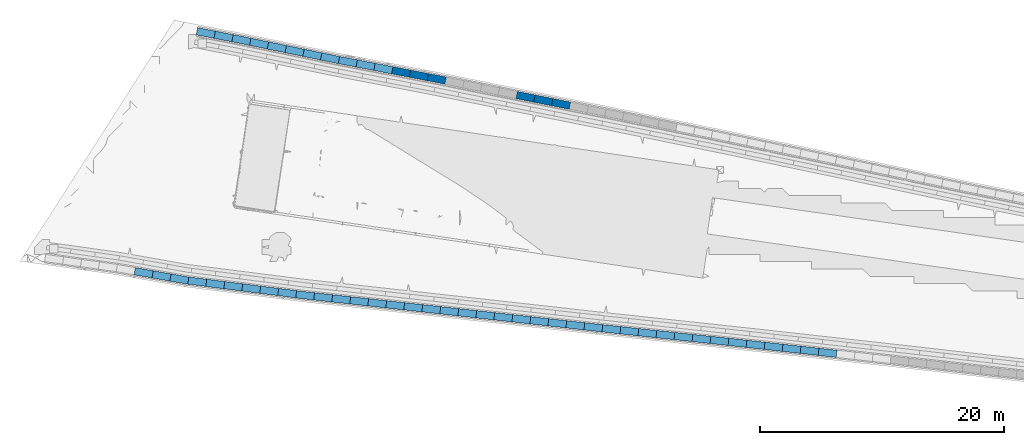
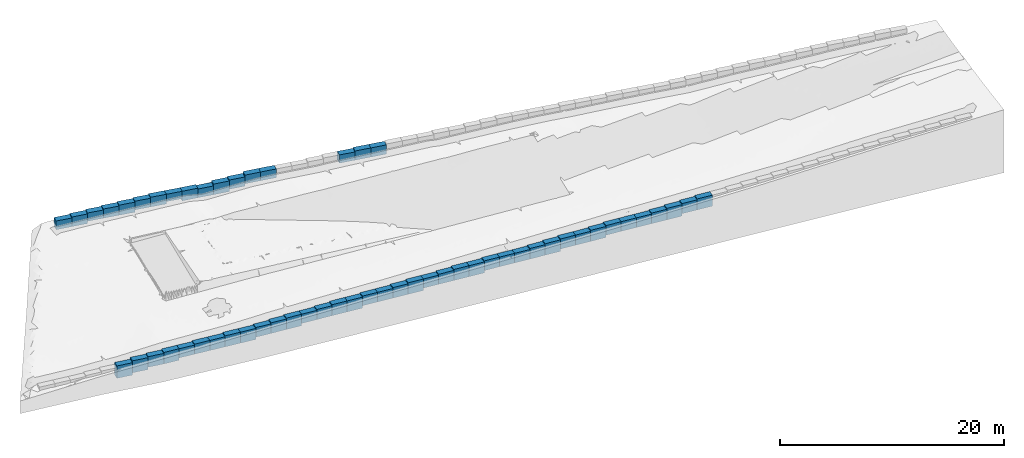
# Not in any storey, part 3 of 7: 56 walls.
"""IFC4 model written with IfcOpenShell, lengths in metres."""

from ifc_helpers import new_model, si_unit, direction, frame, origin_with_axes, place, context, subcontext, project, spatial, polyline, outline, extrude, material, element, save


model = new_model("IFC4")

# Units and contexts
model_context = context("Model", 3, precision=1e-05, world=origin_with_axes(), true_north=direction((0.0, 1.0)))
body_context = subcontext(model_context, "Body", "Model", "MODEL_VIEW")
ifc_project = project(units=[si_unit("VOLUMEUNIT", "CUBIC_METRE"), si_unit("LENGTHUNIT", "METRE"), si_unit("AREAUNIT", "SQUARE_METRE")], contexts=[model_context])

# Site
site_placement = place(None, origin_with_axes())
site = spatial("IfcSite", under=ifc_project, at=site_placement, Name="Lares · Rua das Mercês · artigo 4771")

# Walls
ifc_material = material(Name="Pedra natural · contenção conceptual", Category="stone")
wall_1_placement = place(site_placement, frame((0.0, 0.0, 12.75), z_axis=(0.0, 0.0, 1.0), x_axis=(1.0, -1.03767253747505e-17, 0.0)))
element("IfcWall", 1, at=wall_1_placement, inside=site, material=ifc_material, Name="Limite north · pedra 01", ObjectType="CONCEPT_STONE_RETAINING_EDGE", PredefinedType="USERDEFINED", context=body_context, shape_type="SweptSolid", body=[
    extrude(outline(polyline([(3.89332686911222, 23.7119824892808), (3.7781757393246, 23.1231359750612), (2.32319094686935, 23.407663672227), (2.43834207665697, 23.9965101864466), (3.89332686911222, 23.7119824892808)])), origin_with_axes(), (0.0, 0.0, 1.0), 0.950000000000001),
])
wall_2_placement = place(site_placement, frame((0.0, 0.0, 12.75), z_axis=(0.0, 0.0, 1.0), x_axis=(1.0, -1.03767253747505e-17, 0.0)))
element("IfcWall", 2, at=wall_2_placement, inside=site, material=ifc_material, Name="Limite north · pedra 02", ObjectType="CONCEPT_STONE_RETAINING_EDGE", PredefinedType="USERDEFINED", context=body_context, shape_type="SweptSolid", body=[
    extrude(outline(polyline([(5.34831166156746, 23.427454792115), (5.23316053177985, 22.8386082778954), (3.7781757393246, 23.1231359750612), (3.89332686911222, 23.7119824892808), (5.34831166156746, 23.427454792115)])), origin_with_axes(), (0.0, 0.0, 1.0), 1.05),
])
wall_3_placement = place(site_placement, frame((0.0, 0.0, 13.0), z_axis=(0.0, 0.0, 1.0), x_axis=(1.0, -1.03767253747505e-17, 0.0)))
element("IfcWall", 3, at=wall_3_placement, inside=site, material=ifc_material, Name="Limite north · pedra 03", ObjectType="CONCEPT_STONE_RETAINING_EDGE", PredefinedType="USERDEFINED", context=body_context, shape_type="SweptSolid", body=[
    extrude(outline(polyline([(5.81670150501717, 23.3358594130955), (5.81955566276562, 23.3352868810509), (6.8042320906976, 23.1327904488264), (6.68337264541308, 22.5450889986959), (5.70012190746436, 22.7472922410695), (5.23316053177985, 22.8386082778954), (5.34831166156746, 23.427454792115), (5.81670150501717, 23.3358594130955)])), origin_with_axes(), (0.0, 0.0, 1.0), 0.9),
])
wall_4_placement = place(site_placement, frame((0.0, 0.0, 13.0), z_axis=(0.0, 0.0, 1.0), x_axis=(1.0, -1.03767253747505e-17, 0.0)))
element("IfcWall", 4, at=wall_4_placement, inside=site, material=ifc_material, Name="Limite north · pedra 04", ObjectType="CONCEPT_STONE_RETAINING_EDGE", PredefinedType="USERDEFINED", context=body_context, shape_type="SweptSolid", body=[
    extrude(outline(polyline([(8.25638753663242, 22.8341580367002), (8.1355280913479, 22.2464565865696), (6.68337264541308, 22.5450889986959), (6.8042320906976, 23.1327904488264), (8.25638753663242, 22.8341580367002)])), origin_with_axes(), (0.0, 0.0, 1.0), 1.0),
])
wall_5_placement = place(site_placement, frame((0.0, 0.0, 13.0), z_axis=(0.0, 0.0, 1.0), x_axis=(1.0, -1.03767253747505e-17, 0.0)))
element("IfcWall", 5, at=wall_5_placement, inside=site, material=ifc_material, Name="Limite north · pedra 05", ObjectType="CONCEPT_STONE_RETAINING_EDGE", PredefinedType="USERDEFINED", context=body_context, shape_type="SweptSolid", body=[
    extrude(outline(polyline([(9.70854298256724, 22.5355256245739), (9.58768353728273, 21.9478241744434), (8.1355280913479, 22.2464565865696), (8.25638753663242, 22.8341580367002), (9.70854298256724, 22.5355256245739)])), origin_with_axes(), (0.0, 0.0, 1.0), 1.1),
])
wall_6_placement = place(site_placement, frame((0.0, 0.0, 13.25), z_axis=(0.0, 0.0, 1.0), x_axis=(1.0, -1.03767253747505e-17, 0.0)))
element("IfcWall", 6, at=wall_6_placement, inside=site, material=ifc_material, Name="Limite north · pedra 06", ObjectType="CONCEPT_STONE_RETAINING_EDGE", PredefinedType="USERDEFINED", context=body_context, shape_type="SweptSolid", body=[
    extrude(outline(polyline([(11.1606984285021, 22.2368932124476), (11.0398389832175, 21.6491917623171), (9.58768353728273, 21.9478241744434), (9.70854298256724, 22.5355256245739), (11.1606984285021, 22.2368932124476)])), origin_with_axes(), (0.0, 0.0, 1.0), 0.950000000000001),
])
wall_7_placement = place(site_placement, frame((0.0, 0.0, 13.25), z_axis=(0.0, 0.0, 1.0), x_axis=(1.0, -1.03767253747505e-17, 0.0)))
element("IfcWall", 7, at=wall_7_placement, inside=site, material=ifc_material, Name="Limite north · pedra 07", ObjectType="CONCEPT_STONE_RETAINING_EDGE", PredefinedType="USERDEFINED", context=body_context, shape_type="SweptSolid", body=[
    extrude(outline(polyline([(12.6128538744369, 21.9382608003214), (12.4919944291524, 21.3505593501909), (11.0398389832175, 21.6491917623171), (11.1606984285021, 22.2368932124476), (12.6128538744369, 21.9382608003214)])), origin_with_axes(), (0.0, 0.0, 1.0), 1.05),
])
wall_8_placement = place(site_placement, frame((0.0, 0.0, 13.5), z_axis=(0.0, 0.0, 1.0), x_axis=(1.0, -1.03767253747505e-17, 0.0)))
element("IfcWall", 8, at=wall_8_placement, inside=site, material=ifc_material, Name="Limite north · pedra 08", ObjectType="CONCEPT_STONE_RETAINING_EDGE", PredefinedType="USERDEFINED", context=body_context, shape_type="SweptSolid", body=[
    extrude(outline(polyline([(13.952811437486, 21.6627016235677), (14.061519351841, 21.6417948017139), (13.9482033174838, 21.0525923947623), (13.8376071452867, 21.0738623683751), (13.833835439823, 21.0746128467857), (12.4919944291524, 21.3505593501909), (12.6128538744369, 21.9382608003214), (13.952811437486, 21.6627016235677)])), origin_with_axes(), (0.0, 0.0, 1.0), 0.800000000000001),
])
wall_9_placement = place(site_placement, frame((0.0, 0.0, 13.25), z_axis=(0.0, 0.0, 1.0), x_axis=(1.0, -1.03767253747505e-17, 0.0)))
element("IfcWall", 9, at=wall_9_placement, inside=site, material=ifc_material, Name="Limite north · pedra 09", ObjectType="CONCEPT_STONE_RETAINING_EDGE", PredefinedType="USERDEFINED", context=body_context, shape_type="SweptSolid", body=[
    extrude(outline(polyline([(15.5173835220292, 21.3618014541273), (15.404067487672, 20.7725990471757), (13.9482033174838, 21.0525923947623), (14.061519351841, 21.6417948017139), (15.5173835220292, 21.3618014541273)])), origin_with_axes(), (0.0, 0.0, 1.0), 1.05),
])
wall_10_placement = place(site_placement, frame((0.0, 0.0, 13.25), z_axis=(0.0, 0.0, 1.0), x_axis=(1.0, -1.03767253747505e-17, 0.0)))
element("IfcWall", 10, at=wall_10_placement, inside=site, material=ifc_material, Name="Limite north · pedra 10", ObjectType="CONCEPT_STONE_RETAINING_EDGE", PredefinedType="USERDEFINED", context=body_context, shape_type="SweptSolid", body=[
    extrude(outline(polyline([(16.9732476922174, 21.0818081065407), (16.8599316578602, 20.4926056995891), (15.404067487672, 20.7725990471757), (15.5173835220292, 21.3618014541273), (16.9732476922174, 21.0818081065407)])), origin_with_axes(), (0.0, 0.0, 1.0), 0.950000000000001),
])
wall_11_placement = place(site_placement, frame((0.0, 0.0, 13.25), z_axis=(0.0, 0.0, 1.0), x_axis=(1.0, -1.03767253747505e-17, 0.0)))
element("IfcWall", 11, at=wall_11_placement, inside=site, material=ifc_material, Name="Limite north · pedra 11", ObjectType="CONCEPT_STONE_RETAINING_EDGE", PredefinedType="USERDEFINED", context=body_context, shape_type="SweptSolid", body=[
    extrude(outline(polyline([(18.4291118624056, 20.8018147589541), (18.3157958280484, 20.2126123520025), (16.8599316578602, 20.4926056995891), (16.9732476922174, 21.0818081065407), (18.4291118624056, 20.8018147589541)])), origin_with_axes(), (0.0, 0.0, 1.0), 1.15),
])
wall_12_placement = place(site_placement, frame((0.0, 0.0, 13.5), z_axis=(0.0, 0.0, 1.0), x_axis=(1.0, -1.03767253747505e-17, 0.0)))
element("IfcWall", 12, at=wall_12_placement, inside=site, material=ifc_material, Name="Limite north · pedra 12", ObjectType="CONCEPT_STONE_RETAINING_EDGE", PredefinedType="USERDEFINED", context=body_context, shape_type="SweptSolid", body=[
    extrude(outline(polyline([(19.8849760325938, 20.5218214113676), (19.7716599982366, 19.932619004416), (18.3157958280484, 20.2126123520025), (18.4291118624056, 20.8018147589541), (19.8849760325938, 20.5218214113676)])), origin_with_axes(), (0.0, 0.0, 1.0), 1.0),
])
wall_13_placement = place(site_placement, frame((0.0, 0.0, 13.75), z_axis=(0.0, 0.0, 1.0), x_axis=(1.0, -1.03767253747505e-17, 0.0)))
element("IfcWall", 13, at=wall_13_placement, inside=site, material=ifc_material, Name="Limite north · pedra 13", ObjectType="CONCEPT_STONE_RETAINING_EDGE", PredefinedType="USERDEFINED", context=body_context, shape_type="SweptSolid", body=[
    extrude(outline(polyline([(21.340840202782, 20.241828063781), (21.2275241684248, 19.6526256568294), (19.7716599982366, 19.932619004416), (19.8849760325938, 20.5218214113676), (21.340840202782, 20.241828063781)])), origin_with_axes(), (0.0, 0.0, 1.0), 0.950000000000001),
])
wall_14_placement = place(site_placement, frame((0.0, 0.0, 13.75), z_axis=(0.0, 0.0, 1.0), x_axis=(1.0, -1.03767253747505e-17, 0.0)))
element("IfcWall", 14, at=wall_14_placement, inside=site, material=ifc_material, Name="Limite north · pedra 14", ObjectType="CONCEPT_STONE_RETAINING_EDGE", PredefinedType="USERDEFINED", context=body_context, shape_type="SweptSolid", body=[
    extrude(outline(polyline([(22.0049114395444, 20.1141131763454), (22.0078251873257, 20.1135378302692), (22.7980717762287, 19.9534281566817), (22.6789282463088, 19.3653764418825), (21.8901371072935, 19.5251912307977), (21.2275241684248, 19.6526256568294), (21.340840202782, 20.241828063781), (22.0049114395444, 20.1141131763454)])), origin_with_axes(), (0.0, 0.0, 1.0), 0.950000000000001),
])
wall_15_placement = place(site_placement, frame((0.0, 0.0, 14.0), z_axis=(0.0, 0.0, 1.0), x_axis=(1.0, -1.03767253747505e-17, 0.0)))
element("IfcWall", 15, at=wall_15_placement, inside=site, material=ifc_material, Name="Limite north · pedra 19", ObjectType="CONCEPT_STONE_RETAINING_EDGE", PredefinedType="USERDEFINED", context=body_context, shape_type="SweptSolid", body=[
    extrude(outline(polyline([(30.0636770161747, 18.4884991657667), (29.9462895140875, 17.9000943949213), (28.4923962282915, 18.1901479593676), (28.6097837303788, 18.7785527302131), (30.0636770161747, 18.4884991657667)])), origin_with_axes(), (0.0, 0.0, 1.0), 0.9),
])
wall_16_placement = place(site_placement, frame((0.0, 0.0, 14.0), z_axis=(0.0, 0.0, 1.0), x_axis=(1.0, -1.03767253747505e-17, 0.0)))
element("IfcWall", 16, at=wall_16_placement, inside=site, material=ifc_material, Name="Limite north · pedra 20", ObjectType="CONCEPT_STONE_RETAINING_EDGE", PredefinedType="USERDEFINED", context=body_context, shape_type="SweptSolid", body=[
    extrude(outline(polyline([(31.5175703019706, 18.1984456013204), (31.4001827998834, 17.6100408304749), (29.9462895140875, 17.9000943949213), (30.0636770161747, 18.4884991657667), (31.5175703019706, 18.1984456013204)])), origin_with_axes(), (0.0, 0.0, 1.0), 1.0),
])
wall_17_placement = place(site_placement, frame((0.0, 0.0, 14.0), z_axis=(0.0, 0.0, 1.0), x_axis=(1.0, -1.03767253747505e-17, 0.0)))
element("IfcWall", 17, at=wall_17_placement, inside=site, material=ifc_material, Name="Limite north · pedra 21", ObjectType="CONCEPT_STONE_RETAINING_EDGE", PredefinedType="USERDEFINED", context=body_context, shape_type="SweptSolid", body=[
    extrude(outline(polyline([(32.9714635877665, 17.908392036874), (32.8540760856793, 17.3199872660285), (31.4001827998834, 17.6100408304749), (31.5175703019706, 18.1984456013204), (32.9714635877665, 17.908392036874)])), origin_with_axes(), (0.0, 0.0, 1.0), 1.0),
])
wall_18_placement = place(site_placement, frame((0.0, 0.0, 10.25), z_axis=(0.0, 0.0, 1.0), x_axis=(1.0, -1.03767253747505e-17, 0.0)))
element("IfcWall", 18, at=wall_18_placement, inside=site, material=ifc_material, Name="Limite south · pedra 06", ObjectType="CONCEPT_STONE_RETAINING_EDGE", PredefinedType="USERDEFINED", context=body_context, shape_type="SweptSolid", body=[
    extrude(outline(polyline([(-1.19848150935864, 4.09750178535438), (-1.30281165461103, 3.50664205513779), (-2.76379594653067, 3.76461310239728), (-2.65946580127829, 4.35547283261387), (-1.19848150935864, 4.09750178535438)])), origin_with_axes(), (0.0, 0.0, 1.0), 1.35),
])
wall_19_placement = place(site_placement, frame((0.0, 0.0, 10.5), z_axis=(0.0, 0.0, 1.0), x_axis=(1.0, -1.03767253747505e-17, 0.0)))
element("IfcWall", 19, at=wall_19_placement, inside=site, material=ifc_material, Name="Limite south · pedra 07", ObjectType="CONCEPT_STONE_RETAINING_EDGE", PredefinedType="USERDEFINED", context=body_context, shape_type="SweptSolid", body=[
    extrude(outline(polyline([(0.262502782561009, 3.83953073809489), (0.158172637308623, 3.2486710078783), (-1.30281165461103, 3.50664205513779), (-1.19848150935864, 4.09750178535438), (0.262502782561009, 3.83953073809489)])), origin_with_axes(), (0.0, 0.0, 1.0), 1.3),
])
wall_20_placement = place(site_placement, frame((0.0, 0.0, 10.75), z_axis=(0.0, 0.0, 1.0), x_axis=(1.0, -1.03767253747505e-17, 0.0)))
element("IfcWall", 20, at=wall_20_placement, inside=site, material=ifc_material, Name="Limite south · pedra 08", ObjectType="CONCEPT_STONE_RETAINING_EDGE", PredefinedType="USERDEFINED", context=body_context, shape_type="SweptSolid", body=[
    extrude(outline(polyline([(1.58926131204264, 3.60526039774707), (1.70994870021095, 3.58997964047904), (1.63458178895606, 2.9947319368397), (1.50662680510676, 3.01093287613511), (1.49214518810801, 3.01312686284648), (0.158172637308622, 3.2486710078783), (0.262502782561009, 3.83953073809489), (1.58926131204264, 3.60526039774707)])), origin_with_axes(), (0.0, 0.0, 1.0), 1.15),
])
wall_21_placement = place(site_placement, frame((0.0, 0.0, 10.75), z_axis=(0.0, 0.0, 1.0), x_axis=(1.0, -1.03767253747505e-17, 0.0)))
element("IfcWall", 21, at=wall_21_placement, inside=site, material=ifc_material, Name="Limite south · pedra 09", ObjectType="CONCEPT_STONE_RETAINING_EDGE", PredefinedType="USERDEFINED", context=body_context, shape_type="SweptSolid", body=[
    extrude(outline(polyline([(3.18178287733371, 3.40362428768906), (3.10641596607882, 2.80837658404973), (1.63458178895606, 2.9947319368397), (1.70994870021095, 3.58997964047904), (3.18178287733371, 3.40362428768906)])), origin_with_axes(), (0.0, 0.0, 1.0), 1.25),
])
wall_22_placement = place(site_placement, frame((0.0, 0.0, 11.0), z_axis=(0.0, 0.0, 1.0), x_axis=(1.0, -1.03767253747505e-17, 0.0)))
element("IfcWall", 22, at=wall_22_placement, inside=site, material=ifc_material, Name="Limite south · pedra 10", ObjectType="CONCEPT_STONE_RETAINING_EDGE", PredefinedType="USERDEFINED", context=body_context, shape_type="SweptSolid", body=[
    extrude(outline(polyline([(4.65361705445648, 3.21726893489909), (4.57825014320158, 2.62202123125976), (3.10641596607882, 2.80837658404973), (3.18178287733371, 3.40362428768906), (4.65361705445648, 3.21726893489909)])), origin_with_axes(), (0.0, 0.0, 1.0), 1.0),
])
wall_23_placement = place(site_placement, frame((0.0, 0.0, 11.0), z_axis=(0.0, 0.0, 1.0), x_axis=(1.0, -1.03767253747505e-17, 0.0)))
element("IfcWall", 23, at=wall_23_placement, inside=site, material=ifc_material, Name="Limite south · pedra 11", ObjectType="CONCEPT_STONE_RETAINING_EDGE", PredefinedType="USERDEFINED", context=body_context, shape_type="SweptSolid", body=[
    extrude(outline(polyline([(6.12545123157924, 3.03091358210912), (6.05008432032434, 2.43566587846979), (4.57825014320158, 2.62202123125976), (4.65361705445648, 3.21726893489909), (6.12545123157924, 3.03091358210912)])), origin_with_axes(), (0.0, 0.0, 1.0), 1.1),
])
wall_24_placement = place(site_placement, frame((0.0, 0.0, 11.0), z_axis=(0.0, 0.0, 1.0), x_axis=(1.0, -1.03767253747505e-17, 0.0)))
element("IfcWall", 24, at=wall_24_placement, inside=site, material=ifc_material, Name="Limite south · pedra 12", ObjectType="CONCEPT_STONE_RETAINING_EDGE", PredefinedType="USERDEFINED", context=body_context, shape_type="SweptSolid", body=[
    extrude(outline(polyline([(7.597285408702, 2.84455822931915), (7.52191849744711, 2.24931052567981), (6.05008432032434, 2.43566587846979), (6.12545123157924, 3.03091358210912), (7.597285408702, 2.84455822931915)])), origin_with_axes(), (0.0, 0.0, 1.0), 1.1),
])
wall_25_placement = place(site_placement, frame((0.0, 0.0, 11.0), z_axis=(0.0, 0.0, 1.0), x_axis=(1.0, -1.03767253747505e-17, 0.0)))
element("IfcWall", 25, at=wall_25_placement, inside=site, material=ifc_material, Name="Limite south · pedra 13", ObjectType="CONCEPT_STONE_RETAINING_EDGE", PredefinedType="USERDEFINED", context=body_context, shape_type="SweptSolid", body=[
    extrude(outline(polyline([(9.06911958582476, 2.65820287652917), (8.99375267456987, 2.06295517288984), (7.52191849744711, 2.24931052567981), (7.597285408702, 2.84455822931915), (9.06911958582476, 2.65820287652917)])), origin_with_axes(), (0.0, 0.0, 1.0), 1.2),
])
wall_26_placement = place(site_placement, frame((0.0, 0.0, 11.0), z_axis=(0.0, 0.0, 1.0), x_axis=(1.0, -1.03767253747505e-17, 0.0)))
element("IfcWall", 26, at=wall_26_placement, inside=site, material=ifc_material, Name="Limite south · pedra 14", ObjectType="CONCEPT_STONE_RETAINING_EDGE", PredefinedType="USERDEFINED", context=body_context, shape_type="SweptSolid", body=[
    extrude(outline(polyline([(10.5409537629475, 2.4718475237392), (10.4655868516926, 1.87659982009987), (8.99375267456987, 2.06295517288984), (9.06911958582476, 2.65820287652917), (10.5409537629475, 2.4718475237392)])), origin_with_axes(), (0.0, 0.0, 1.0), 1.2),
])
wall_27_placement = place(site_placement, frame((0.0, 0.0, 11.25), z_axis=(0.0, 0.0, 1.0), x_axis=(1.0, -1.03767253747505e-17, 0.0)))
element("IfcWall", 27, at=wall_27_placement, inside=site, material=ifc_material, Name="Limite south · pedra 15", ObjectType="CONCEPT_STONE_RETAINING_EDGE", PredefinedType="USERDEFINED", context=body_context, shape_type="SweptSolid", body=[
    extrude(outline(polyline([(11.1476650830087, 2.39502915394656), (12.0096304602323, 2.29999823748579), (11.9438793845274, 1.703611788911), (11.0795077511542, 1.79890799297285), (11.0746998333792, 1.79947736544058), (10.4655868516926, 1.87659982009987), (10.5409537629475, 2.4718475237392), (11.1476650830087, 2.39502915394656)])), origin_with_axes(), (0.0, 0.0, 1.0), 1.05),
])
wall_28_placement = place(site_placement, frame((0.0, 0.0, 11.25), z_axis=(0.0, 0.0, 1.0), x_axis=(1.0, -1.03767253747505e-17, 0.0)))
element("IfcWall", 28, at=wall_28_placement, inside=site, material=ifc_material, Name="Limite south · pedra 16", ObjectType="CONCEPT_STONE_RETAINING_EDGE", PredefinedType="USERDEFINED", context=body_context, shape_type="SweptSolid", body=[
    extrude(outline(polyline([(13.4842803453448, 2.13741939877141), (13.4185292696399, 1.54103295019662), (11.9438793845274, 1.703611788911), (12.0096304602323, 2.29999823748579), (13.4842803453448, 2.13741939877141)])), origin_with_axes(), (0.0, 0.0, 1.0), 1.15),
])
wall_29_placement = place(site_placement, frame((0.0, 0.0, 11.25), z_axis=(0.0, 0.0, 1.0), x_axis=(1.0, -1.03767253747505e-17, 0.0)))
element("IfcWall", 29, at=wall_29_placement, inside=site, material=ifc_material, Name="Limite south · pedra 17", ObjectType="CONCEPT_STONE_RETAINING_EDGE", PredefinedType="USERDEFINED", context=body_context, shape_type="SweptSolid", body=[
    extrude(outline(polyline([(14.9589302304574, 1.97484056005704), (14.8931791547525, 1.37845411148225), (13.4185292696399, 1.54103295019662), (13.4842803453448, 2.13741939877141), (14.9589302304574, 1.97484056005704)])), origin_with_axes(), (0.0, 0.0, 1.0), 1.25),
])
wall_30_placement = place(site_placement, frame((0.0, 0.0, 11.5), z_axis=(0.0, 0.0, 1.0), x_axis=(1.0, -1.03767253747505e-17, 0.0)))
element("IfcWall", 30, at=wall_30_placement, inside=site, material=ifc_material, Name="Limite south · pedra 18", ObjectType="CONCEPT_STONE_RETAINING_EDGE", PredefinedType="USERDEFINED", context=body_context, shape_type="SweptSolid", body=[
    extrude(outline(polyline([(16.4335801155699, 1.81226172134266), (16.367829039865, 1.21587527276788), (14.8931791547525, 1.37845411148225), (14.9589302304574, 1.97484056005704), (16.4335801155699, 1.81226172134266)])), origin_with_axes(), (0.0, 0.0, 1.0), 1.0),
])
wall_31_placement = place(site_placement, frame((0.0, 0.0, 11.5), z_axis=(0.0, 0.0, 1.0), x_axis=(1.0, -1.03767253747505e-17, 0.0)))
element("IfcWall", 31, at=wall_31_placement, inside=site, material=ifc_material, Name="Limite south · pedra 19", ObjectType="CONCEPT_STONE_RETAINING_EDGE", PredefinedType="USERDEFINED", context=body_context, shape_type="SweptSolid", body=[
    extrude(outline(polyline([(17.9082300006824, 1.64968288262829), (17.8424789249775, 1.0532964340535), (16.367829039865, 1.21587527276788), (16.4335801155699, 1.81226172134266), (17.9082300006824, 1.64968288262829)])), origin_with_axes(), (0.0, 0.0, 1.0), 1.1),
])
wall_32_placement = place(site_placement, frame((0.0, 0.0, 11.5), z_axis=(0.0, 0.0, 1.0), x_axis=(1.0, -1.03767253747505e-17, 0.0)))
element("IfcWall", 32, at=wall_32_placement, inside=site, material=ifc_material, Name="Limite south · pedra 20", ObjectType="CONCEPT_STONE_RETAINING_EDGE", PredefinedType="USERDEFINED", context=body_context, shape_type="SweptSolid", body=[
    extrude(outline(polyline([(19.382879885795, 1.48710404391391), (19.31712881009, 0.890717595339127), (17.8424789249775, 1.0532964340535), (17.9082300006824, 1.64968288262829), (19.382879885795, 1.48710404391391)])), origin_with_axes(), (0.0, 0.0, 1.0), 1.2),
])
wall_33_placement = place(site_placement, frame((0.0, 0.0, 11.5), z_axis=(0.0, 0.0, 1.0), x_axis=(1.0, -1.03767253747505e-17, 0.0)))
element("IfcWall", 33, at=wall_33_placement, inside=site, material=ifc_material, Name="Limite south · pedra 21", ObjectType="CONCEPT_STONE_RETAINING_EDGE", PredefinedType="USERDEFINED", context=body_context, shape_type="SweptSolid", body=[
    extrude(outline(polyline([(20.8575297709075, 1.32452520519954), (20.7917786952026, 0.728138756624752), (19.31712881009, 0.890717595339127), (19.382879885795, 1.48710404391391), (20.8575297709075, 1.32452520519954)])), origin_with_axes(), (0.0, 0.0, 1.0), 1.2),
])
wall_34_placement = place(site_placement, frame((0.0, 0.0, 11.75), z_axis=(0.0, 0.0, 1.0), x_axis=(1.0, -1.03767253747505e-17, 0.0)))
element("IfcWall", 34, at=wall_34_placement, inside=site, material=ifc_material, Name="Limite south · pedra 22", ObjectType="CONCEPT_STONE_RETAINING_EDGE", PredefinedType="USERDEFINED", context=body_context, shape_type="SweptSolid", body=[
    extrude(outline(polyline([(22.33217965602, 1.16194636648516), (22.2664285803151, 0.565559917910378), (20.7917786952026, 0.728138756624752), (20.8575297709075, 1.32452520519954), (22.33217965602, 1.16194636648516)])), origin_with_axes(), (0.0, 0.0, 1.0), 1.05),
])
wall_35_placement = place(site_placement, frame((0.0, 0.0, 11.75), z_axis=(0.0, 0.0, 1.0), x_axis=(1.0, -1.03767253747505e-17, 0.0)))
element("IfcWall", 35, at=wall_35_placement, inside=site, material=ifc_material, Name="Limite south · pedra 23", ObjectType="CONCEPT_STONE_RETAINING_EDGE", PredefinedType="USERDEFINED", context=body_context, shape_type="SweptSolid", body=[
    extrude(outline(polyline([(23.5412816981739, 1.02864394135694), (23.5416464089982, 1.02860350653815), (23.8071582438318, 0.99900230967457), (23.7406777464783, 0.402696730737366), (23.4753482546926, 0.432277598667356), (22.2664285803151, 0.565559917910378), (22.33217965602, 1.16194636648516), (23.5412816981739, 1.02864394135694)])), origin_with_axes(), (0.0, 0.0, 1.0), 1.05),
])
wall_36_placement = place(site_placement, frame((0.0, 0.0, 11.75), z_axis=(0.0, 0.0, 1.0), x_axis=(1.0, -1.03767253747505e-17, 0.0)))
element("IfcWall", 36, at=wall_36_placement, inside=site, material=ifc_material, Name="Limite south · pedra 24", ObjectType="CONCEPT_STONE_RETAINING_EDGE", PredefinedType="USERDEFINED", context=body_context, shape_type="SweptSolid", body=[
    extrude(outline(polyline([(25.281608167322, 0.834619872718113), (25.2151276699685, 0.238314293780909), (23.7406777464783, 0.402696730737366), (23.8071582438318, 0.99900230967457), (25.281608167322, 0.834619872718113)])), origin_with_axes(), (0.0, 0.0, 1.0), 1.15),
])
wall_37_placement = place(site_placement, frame((0.0, 0.0, 11.75), z_axis=(0.0, 0.0, 1.0), x_axis=(1.0, -1.03767253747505e-17, 0.0)))
element("IfcWall", 37, at=wall_37_placement, inside=site, material=ifc_material, Name="Limite south · pedra 25", ObjectType="CONCEPT_STONE_RETAINING_EDGE", PredefinedType="USERDEFINED", context=body_context, shape_type="SweptSolid", body=[
    extrude(outline(polyline([(26.7560580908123, 0.670237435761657), (26.6895775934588, 0.0739318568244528), (25.2151276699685, 0.238314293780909), (25.281608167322, 0.834619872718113), (26.7560580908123, 0.670237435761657)])), origin_with_axes(), (0.0, 0.0, 1.0), 1.25),
])
wall_38_placement = place(site_placement, frame((0.0, 0.0, 12.0), z_axis=(0.0, 0.0, 1.0), x_axis=(1.0, -1.03767253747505e-17, 0.0)))
element("IfcWall", 38, at=wall_38_placement, inside=site, material=ifc_material, Name="Limite south · pedra 26", ObjectType="CONCEPT_STONE_RETAINING_EDGE", PredefinedType="USERDEFINED", context=body_context, shape_type="SweptSolid", body=[
    extrude(outline(polyline([(28.2305080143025, 0.505854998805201), (28.164027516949, -0.0904505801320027), (26.6895775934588, 0.0739318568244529), (26.7560580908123, 0.670237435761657), (28.2305080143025, 0.505854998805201)])), origin_with_axes(), (0.0, 0.0, 1.0), 1.0),
])
wall_39_placement = place(site_placement, frame((0.0, 0.0, 12.0), z_axis=(0.0, 0.0, 1.0), x_axis=(1.0, -1.03767253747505e-17, 0.0)))
element("IfcWall", 39, at=wall_39_placement, inside=site, material=ifc_material, Name="Limite south · pedra 27", ObjectType="CONCEPT_STONE_RETAINING_EDGE", PredefinedType="USERDEFINED", context=body_context, shape_type="SweptSolid", body=[
    extrude(outline(polyline([(29.7049579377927, 0.341472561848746), (29.6384774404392, -0.254833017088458), (28.164027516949, -0.0904505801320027), (28.2305080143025, 0.505854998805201), (29.7049579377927, 0.341472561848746)])), origin_with_axes(), (0.0, 0.0, 1.0), 1.1),
])
wall_40_placement = place(site_placement, frame((0.0, 0.0, 12.0), z_axis=(0.0, 0.0, 1.0), x_axis=(1.0, -1.03767253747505e-17, 0.0)))
element("IfcWall", 40, at=wall_40_placement, inside=site, material=ifc_material, Name="Limite south · pedra 28", ObjectType="CONCEPT_STONE_RETAINING_EDGE", PredefinedType="USERDEFINED", context=body_context, shape_type="SweptSolid", body=[
    extrude(outline(polyline([(31.179407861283, 0.177090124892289), (31.1129273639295, -0.419215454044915), (29.6384774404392, -0.254833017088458), (29.7049579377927, 0.341472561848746), (31.179407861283, 0.177090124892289)])), origin_with_axes(), (0.0, 0.0, 1.0), 1.2),
])
wall_41_placement = place(site_placement, frame((0.0, 0.0, 12.0), z_axis=(0.0, 0.0, 1.0), x_axis=(1.0, -1.03767253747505e-17, 0.0)))
element("IfcWall", 41, at=wall_41_placement, inside=site, material=ifc_material, Name="Limite south · pedra 29", ObjectType="CONCEPT_STONE_RETAINING_EDGE", PredefinedType="USERDEFINED", context=body_context, shape_type="SweptSolid", body=[
    extrude(outline(polyline([(32.6538577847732, 0.0127076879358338), (32.5873772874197, -0.58359789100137), (31.1129273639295, -0.419215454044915), (31.179407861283, 0.177090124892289), (32.6538577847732, 0.0127076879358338)])), origin_with_axes(), (0.0, 0.0, 1.0), 1.2),
])
wall_42_placement = place(site_placement, frame((0.0, 0.0, 12.25), z_axis=(0.0, 0.0, 1.0), x_axis=(1.0, -1.03767253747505e-17, 0.0)))
element("IfcWall", 42, at=wall_42_placement, inside=site, material=ifc_material, Name="Limite south · pedra 30", ObjectType="CONCEPT_STONE_RETAINING_EDGE", PredefinedType="USERDEFINED", context=body_context, shape_type="SweptSolid", body=[
    extrude(outline(polyline([(34.1283077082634, -0.151674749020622), (34.06182721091, -0.747980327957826), (32.5873772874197, -0.58359789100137), (32.6538577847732, 0.0127076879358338), (34.1283077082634, -0.151674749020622)])), origin_with_axes(), (0.0, 0.0, 1.0), 1.05),
])
wall_43_placement = place(site_placement, frame((0.0, 0.0, 12.25), z_axis=(0.0, 0.0, 1.0), x_axis=(1.0, -1.03767253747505e-17, 0.0)))
element("IfcWall", 43, at=wall_43_placement, inside=site, material=ifc_material, Name="Limite south · pedra 31", ObjectType="CONCEPT_STONE_RETAINING_EDGE", PredefinedType="USERDEFINED", context=body_context, shape_type="SweptSolid", body=[
    extrude(outline(polyline([(35.2071517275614, -0.2719521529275), (35.6017744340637, -0.314407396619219), (35.5375941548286, -0.910964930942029), (35.1423962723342, -0.868447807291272), (35.141246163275, -0.868321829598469), (34.06182721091, -0.747980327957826), (34.1283077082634, -0.151674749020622), (35.2071517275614, -0.2719521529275)])), origin_with_axes(), (0.0, 0.0, 1.0), 1.05),
])
wall_44_placement = place(site_placement, frame((0.0, 0.0, 12.25), z_axis=(0.0, 0.0, 1.0), x_axis=(1.0, -1.03767253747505e-17, 0.0)))
element("IfcWall", 44, at=wall_44_placement, inside=site, material=ifc_material, Name="Limite south · pedra 32", ObjectType="CONCEPT_STONE_RETAINING_EDGE", PredefinedType="USERDEFINED", context=body_context, shape_type="SweptSolid", body=[
    extrude(outline(polyline([(37.0768473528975, -0.473102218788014), (37.0126670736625, -1.06965975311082), (35.5375941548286, -0.910964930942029), (35.6017744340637, -0.314407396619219), (37.0768473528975, -0.473102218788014)])), origin_with_axes(), (0.0, 0.0, 1.0), 1.05),
])
wall_45_placement = place(site_placement, frame((0.0, 0.0, 12.25), z_axis=(0.0, 0.0, 1.0), x_axis=(1.0, -1.03767253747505e-17, 0.0)))
element("IfcWall", 45, at=wall_45_placement, inside=site, material=ifc_material, Name="Limite south · pedra 33", ObjectType="CONCEPT_STONE_RETAINING_EDGE", PredefinedType="USERDEFINED", context=body_context, shape_type="SweptSolid", body=[
    extrude(outline(polyline([(38.5519202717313, -0.631797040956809), (38.4877399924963, -1.22835457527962), (37.0126670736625, -1.06965975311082), (37.0768473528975, -0.473102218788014), (38.5519202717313, -0.631797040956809)])), origin_with_axes(), (0.0, 0.0, 1.0), 1.15),
])
wall_46_placement = place(site_placement, frame((0.0, 0.0, 12.25), z_axis=(0.0, 0.0, 1.0), x_axis=(1.0, -1.03767253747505e-17, 0.0)))
element("IfcWall", 46, at=wall_46_placement, inside=site, material=ifc_material, Name="Limite south · pedra 34", ObjectType="CONCEPT_STONE_RETAINING_EDGE", PredefinedType="USERDEFINED", context=body_context, shape_type="SweptSolid", body=[
    extrude(outline(polyline([(40.0269931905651, -0.790491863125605), (39.9628129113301, -1.38704939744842), (38.4877399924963, -1.22835457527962), (38.5519202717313, -0.631797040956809), (40.0269931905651, -0.790491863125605)])), origin_with_axes(), (0.0, 0.0, 1.0), 1.25),
])
wall_47_placement = place(site_placement, frame((0.0, 0.0, 12.5), z_axis=(0.0, 0.0, 1.0), x_axis=(1.0, -1.03767253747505e-17, 0.0)))
element("IfcWall", 47, at=wall_47_placement, inside=site, material=ifc_material, Name="Limite south · pedra 35", ObjectType="CONCEPT_STONE_RETAINING_EDGE", PredefinedType="USERDEFINED", context=body_context, shape_type="SweptSolid", body=[
    extrude(outline(polyline([(41.502066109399, -0.9491866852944), (41.4378858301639, -1.54574421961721), (39.9628129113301, -1.38704939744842), (40.0269931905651, -0.790491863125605), (41.502066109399, -0.9491866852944)])), origin_with_axes(), (0.0, 0.0, 1.0), 1.1),
])
wall_48_placement = place(site_placement, frame((0.0, 0.0, 12.5), z_axis=(0.0, 0.0, 1.0), x_axis=(1.0, -1.03767253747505e-17, 0.0)))
element("IfcWall", 48, at=wall_48_placement, inside=site, material=ifc_material, Name="Limite south · pedra 36", ObjectType="CONCEPT_STONE_RETAINING_EDGE", PredefinedType="USERDEFINED", context=body_context, shape_type="SweptSolid", body=[
    extrude(outline(polyline([(42.9771390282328, -1.1078815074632), (42.9129587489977, -1.70443904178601), (41.4378858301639, -1.54574421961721), (41.502066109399, -0.9491866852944), (42.9771390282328, -1.1078815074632)])), origin_with_axes(), (0.0, 0.0, 1.0), 1.1),
])
wall_49_placement = place(site_placement, frame((0.0, 0.0, 12.5), z_axis=(0.0, 0.0, 1.0), x_axis=(1.0, -1.03767253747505e-17, 0.0)))
element("IfcWall", 49, at=wall_49_placement, inside=site, material=ifc_material, Name="Limite south · pedra 37", ObjectType="CONCEPT_STONE_RETAINING_EDGE", PredefinedType="USERDEFINED", context=body_context, shape_type="SweptSolid", body=[
    extrude(outline(polyline([(44.4522119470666, -1.26657632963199), (44.3880316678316, -1.8631338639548), (42.9129587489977, -1.70443904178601), (42.9771390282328, -1.1078815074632), (44.4522119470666, -1.26657632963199)])), origin_with_axes(), (0.0, 0.0, 1.0), 1.2),
])
wall_50_placement = place(site_placement, frame((0.0, 0.0, 12.75), z_axis=(0.0, 0.0, 1.0), x_axis=(1.0, -1.03767253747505e-17, 0.0)))
element("IfcWall", 50, at=wall_50_placement, inside=site, material=ifc_material, Name="Limite south · pedra 38", ObjectType="CONCEPT_STONE_RETAINING_EDGE", PredefinedType="USERDEFINED", context=body_context, shape_type="SweptSolid", body=[
    extrude(outline(polyline([(45.9272848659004, -1.42527115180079), (45.8631045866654, -2.0218286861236), (44.3880316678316, -1.8631338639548), (44.4522119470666, -1.26657632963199), (45.9272848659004, -1.42527115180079)])), origin_with_axes(), (0.0, 0.0, 1.0), 1.05),
])
wall_51_placement = place(site_placement, frame((0.0, 0.0, 12.75), z_axis=(0.0, 0.0, 1.0), x_axis=(1.0, -1.03767253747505e-17, 0.0)))
element("IfcWall", 51, at=wall_51_placement, inside=site, material=ifc_material, Name="Limite south · pedra 39", ObjectType="CONCEPT_STONE_RETAINING_EDGE", PredefinedType="USERDEFINED", context=body_context, shape_type="SweptSolid", body=[
    extrude(outline(polyline([(47.2100549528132, -1.56327719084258), (47.2110724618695, -1.56338841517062), (47.40330358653, -1.584733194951), (47.3370882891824, -2.18106828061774), (47.1453658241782, -2.15977998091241), (45.8631045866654, -2.0218286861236), (45.9272848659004, -1.42527115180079), (47.2100549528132, -1.56327719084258)])), origin_with_axes(), (0.0, 0.0, 1.0), 1.05),
])
wall_52_placement = place(site_placement, frame((0.0, 0.0, 12.75), z_axis=(0.0, 0.0, 1.0), x_axis=(1.0, -1.03767253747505e-17, 0.0)))
element("IfcWall", 52, at=wall_52_placement, inside=site, material=ifc_material, Name="Limite south · pedra 40", ObjectType="CONCEPT_STONE_RETAINING_EDGE", PredefinedType="USERDEFINED", context=body_context, shape_type="SweptSolid", body=[
    extrude(outline(polyline([(48.8778264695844, -1.74845988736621), (48.8116111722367, -2.34479497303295), (47.3370882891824, -2.18106828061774), (47.40330358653, -1.584733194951), (48.8778264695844, -1.74845988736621)])), origin_with_axes(), (0.0, 0.0, 1.0), 1.05),
])
wall_53_placement = place(site_placement, frame((0.0, 0.0, 12.75), z_axis=(0.0, 0.0, 1.0), x_axis=(1.0, -1.03767253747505e-17, 0.0)))
element("IfcWall", 53, at=wall_53_placement, inside=site, material=ifc_material, Name="Limite south · pedra 41", ObjectType="CONCEPT_STONE_RETAINING_EDGE", PredefinedType="USERDEFINED", context=body_context, shape_type="SweptSolid", body=[
    extrude(outline(polyline([(50.3523493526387, -1.91218657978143), (50.2861340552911, -2.50852166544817), (48.8116111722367, -2.34479497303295), (48.8778264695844, -1.74845988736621), (50.3523493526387, -1.91218657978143)])), origin_with_axes(), (0.0, 0.0, 1.0), 1.15),
])
wall_54_placement = place(site_placement, frame((0.0, 0.0, 12.75), z_axis=(0.0, 0.0, 1.0), x_axis=(1.0, -1.03767253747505e-17, 0.0)))
element("IfcWall", 54, at=wall_54_placement, inside=site, material=ifc_material, Name="Limite south · pedra 42", ObjectType="CONCEPT_STONE_RETAINING_EDGE", PredefinedType="USERDEFINED", context=body_context, shape_type="SweptSolid", body=[
    extrude(outline(polyline([(51.8268722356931, -2.07591327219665), (51.7606569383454, -2.67224835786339), (50.2861340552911, -2.50852166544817), (50.3523493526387, -1.91218657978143), (51.8268722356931, -2.07591327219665)])), origin_with_axes(), (0.0, 0.0, 1.0), 1.25),
])
wall_55_placement = place(site_placement, frame((0.0, 0.0, 13.0), z_axis=(0.0, 0.0, 1.0), x_axis=(1.0, -1.03767253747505e-17, 0.0)))
element("IfcWall", 55, at=wall_55_placement, inside=site, material=ifc_material, Name="Limite south · pedra 43", ObjectType="CONCEPT_STONE_RETAINING_EDGE", PredefinedType="USERDEFINED", context=body_context, shape_type="SweptSolid", body=[
    extrude(outline(polyline([(53.3013951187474, -2.23963996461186), (53.2351798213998, -2.8359750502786), (51.7606569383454, -2.67224835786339), (51.8268722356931, -2.07591327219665), (53.3013951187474, -2.23963996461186)])), origin_with_axes(), (0.0, 0.0, 1.0), 1.1),
])
wall_56_placement = place(site_placement, frame((0.0, 0.0, 13.0), z_axis=(0.0, 0.0, 1.0), x_axis=(1.0, -1.03767253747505e-17, 0.0)))
element("IfcWall", 56, at=wall_56_placement, inside=site, material=ifc_material, Name="Limite south · pedra 44", ObjectType="CONCEPT_STONE_RETAINING_EDGE", PredefinedType="USERDEFINED", context=body_context, shape_type="SweptSolid", body=[
    extrude(outline(polyline([(54.7759180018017, -2.40336665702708), (54.7097027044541, -2.99970174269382), (53.2351798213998, -2.8359750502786), (53.3013951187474, -2.23963996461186), (54.7759180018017, -2.40336665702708)])), origin_with_axes(), (0.0, 0.0, 1.0), 1.2),
])

save(model, "model.ifc")
